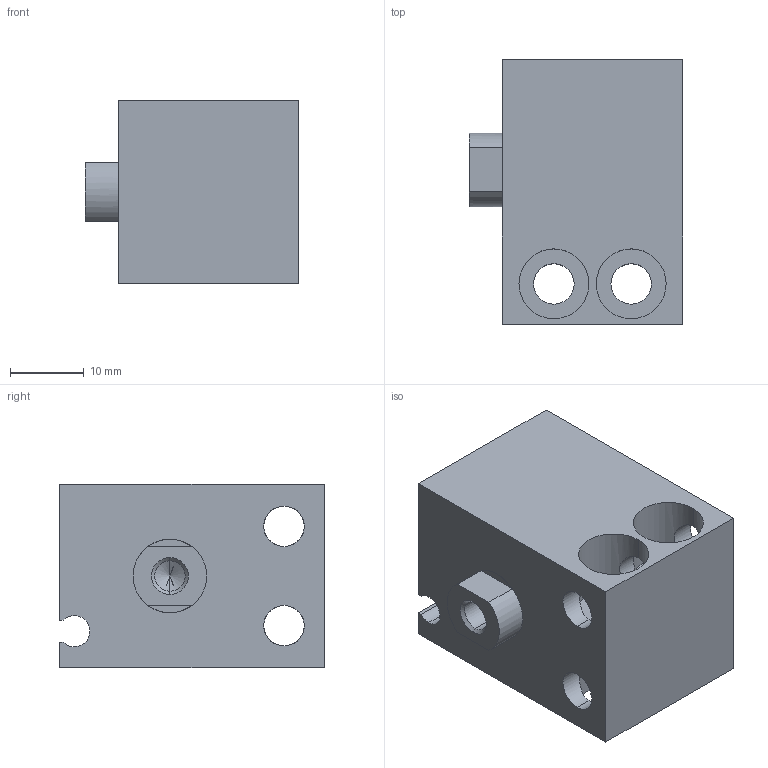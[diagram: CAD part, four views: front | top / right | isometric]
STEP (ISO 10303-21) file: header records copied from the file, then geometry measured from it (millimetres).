
FILE_DESCRIPTION (( 'STEP AP203' ), '1' );
FILE_NAME ('CLJB20-5.STEP', '2020-07-30T19:25:21', ( '' ), ( '' ), 'SwSTEP 2.0', 'SolidWorks 2019', '' );
FILE_SCHEMA (( 'CONFIG_CONTROL_DESIGN' ));
Length unit declared in the file: millimetre
Products named in the file (1): CLJB20-5
Bounding box: 29 x 36 x 25 mm (x, y, z)
Volume: 17442.7 mm3; surface area: 8710.9 mm2
Topology: 2 solids, 2 shells, 75 faces, 188 edges, 113 vertices
Faces by surface type: cylinder 41, plane 22, cone 12
Entity records: 3255 total; most frequent: CARTESIAN_POINT 1359, DIRECTION 394, ORIENTED_EDGE 364, EDGE_CURVE 182, AXIS2_PLACEMENT_3D 152, VERTEX_POINT 113, EDGE_LOOP 93, LINE 90
